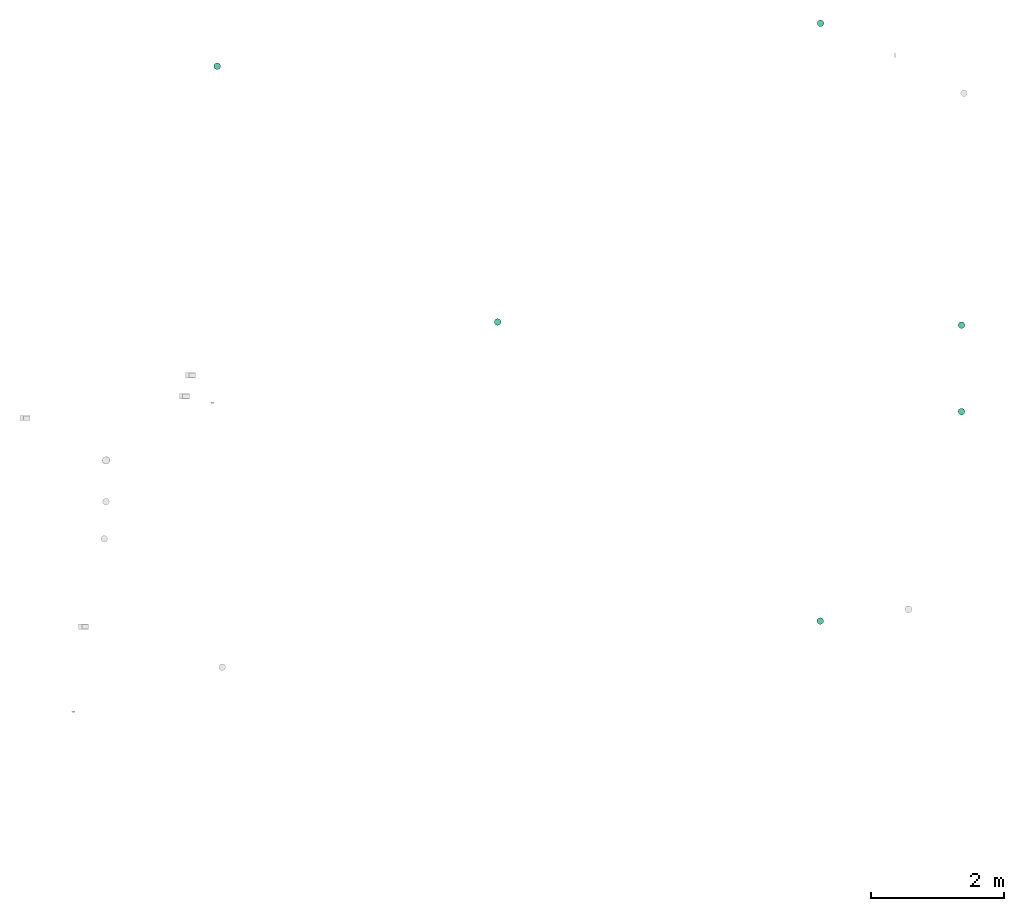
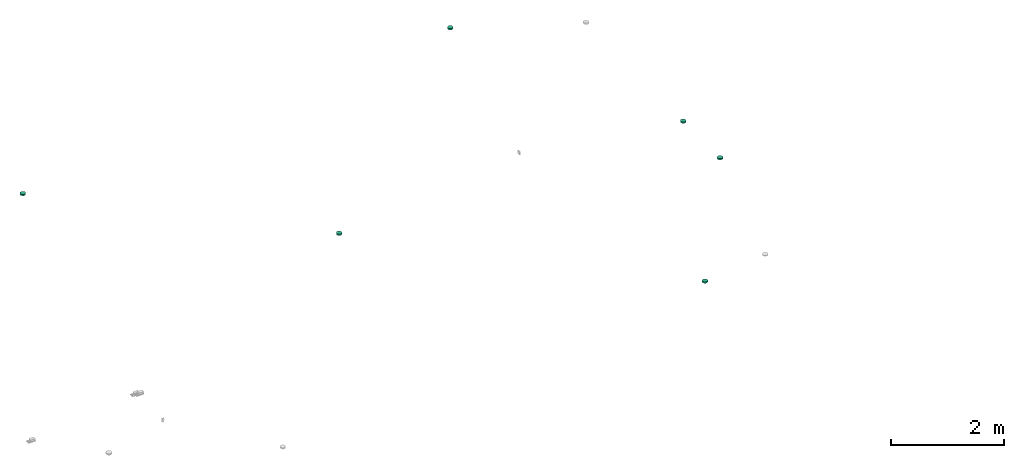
# One storey, part 6 of 10: 6 distribution control elements.
"""IFC2X3 building model written with IfcOpenShell, lengths in millimetres."""

from ifc_helpers import new_model, entity, si_unit, converted_unit, derived_unit, direction, frame, origin_with_axes, place, context, subcontext, project, spatial, open_shell, surface_model, source, transform, mapped, type_object, element, save


model = new_model("IFC2X3")

# Units and contexts
model_context = context("Model", 3, precision=0.01, world=frame((0.0, 4.29681676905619e-09, 0.0)), true_north=direction((4.01073788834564e-13, 1.0)))
plan_context = context("Plan", 3, precision=0.01, world=frame((0.0, 4.29681676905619e-09, 0.0)), true_north=direction((4.01073788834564e-13, 1.0)))
body_context = subcontext(model_context, "Body", "Model", "MODEL_VIEW")
ifc_project = project(units=[converted_unit("PLANEANGLEUNIT", "DEGREE", entity("IfcPositiveLengthMeasure", 0.0174532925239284), si_unit("PLANEANGLEUNIT", "RADIAN"), dimensions=[0, 0, 0, 0, 0, 0, 0]), si_unit("AREAUNIT", "SQUARE_METRE"), si_unit("LENGTHUNIT", "METRE", prefix="MILLI"), si_unit("MASSUNIT", "GRAM", prefix="KILO"), si_unit("POWERUNIT", "WATT"), si_unit("PRESSUREUNIT", "PASCAL"), si_unit("FORCEUNIT", "NEWTON", prefix="KILO"), si_unit("ELECTRICVOLTAGEUNIT", "VOLT"), si_unit("ELECTRICCURRENTUNIT", "AMPERE"), si_unit("THERMODYNAMICTEMPERATUREUNIT", "DEGREE_CELSIUS"), si_unit("TIMEUNIT", "SECOND"), si_unit("VOLUMEUNIT", "CUBIC_METRE"), derived_unit("LINEARVELOCITYUNIT", [(si_unit("LENGTHUNIT", "METRE"), 1), (si_unit("TIMEUNIT", "SECOND"), -1)]), derived_unit("VOLUMETRICFLOWRATEUNIT", [(si_unit("VOLUMEUNIT", "CUBIC_METRE"), 1), (si_unit("TIMEUNIT", "SECOND"), -1)]), derived_unit("THERMALTRANSMITTANCEUNIT", [(si_unit("POWERUNIT", "WATT"), 1), (si_unit("THERMODYNAMICTEMPERATUREUNIT", "KELVIN"), -1), (si_unit("AREAUNIT", "SQUARE_METRE"), -1)]), derived_unit("SOUNDPRESSUREUNIT", [(si_unit("PRESSUREUNIT", "PASCAL"), 1)])], contexts=[model_context, plan_context])

# Site, building, storey
site_placement = place(None, frame((0.0, -4.29681676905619e-09, 0.0), z_axis=(0.0, 0.0, 1.0), x_axis=(1.0, 0.0, 0.0)))
site = spatial("IfcSite", under=ifc_project, at=site_placement, Name="ENGM", CompositionType="ELEMENT")
building_placement = place(site_placement, frame((0.0, 4.29681676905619e-09, 0.0), z_axis=(0.0, 0.0, 1.0), x_axis=(1.0, 0.0, 0.0)))
building = spatial("IfcBuilding", under=site, at=building_placement, Name="TS", CompositionType="ELEMENT")
storey_placement = place(building_placement, frame((0.0, 0.0, 210900.0), z_axis=(0.0, 0.0, 1.0), x_axis=(1.0, 0.0, 0.0)))
storey = spatial("IfcBuildingStorey", under=building, at=storey_placement, Name="Nivå F", CompositionType="ELEMENT", Elevation=210900.0)

# Distribution control elements
alarm_type = type_object("IfcAlarmType", Name="Standard", PredefinedType="NOTDEFINED")
shared_shape = source(origin_with_axes(), body_context, "Body", "SurfaceModel", [
    surface_model("IfcShellBasedSurfaceModel", [(-25.0, 43.30127, -28.9), (-35.35534, 35.35534, -28.9), (-18.0, 31.17691, -28.9), (-25.45584, 25.45584, -28.9), (-9.31749, 34.77333, -28.9), (-12.94095, 48.29629, -28.9), (0.0, 36.0, -28.9), (0.0, 50.0, -28.9), (-34.77333, 9.31749, -28.9), (-43.30127, 25.0, -28.9), (-48.29629, 12.94095, -28.9), (-36.0, 0.0, -28.9), (-50.0, 0.0, -28.9), (-31.17691, 18.0, -28.9), (9.31749, 34.77333, -28.9), (12.94095, 48.29629, -28.9), (18.0, 31.17691, -28.9), (35.35534, 35.35534, -28.9), (25.0, 43.30127, -28.9), (25.45584, 25.45584, -28.9), (31.17691, 18.0, -28.9), (34.77333, 9.31749, -28.9), (43.30127, 25.0, -28.9), (48.29629, 12.94095, -28.9), (36.0, 0.0, -28.9), (50.0, 0.0, -28.9), (-34.77333, -9.31749, -28.9), (-48.29629, -12.94095, -28.9), (-31.17691, -18.0, -28.9), (-43.30127, -25.0, -28.9), (-25.45584, -25.45584, -28.9), (-35.35534, -35.35534, -28.9), (-18.0, -31.17691, -28.9), (-25.0, -43.30127, -28.9), (-9.31749, -34.77333, -28.9), (-12.94095, -48.29629, -28.9), (0.0, -36.0, -28.9), (0.0, -50.0, -28.9), (43.30127, -25.0, -28.9), (31.17691, -18.0, -28.9), (35.35534, -35.35534, -28.9), (34.77333, -9.31749, -28.9), (48.29629, -12.94095, -28.9), (25.45584, -25.45584, -28.9), (9.31749, -34.77333, -28.9), (12.94095, -48.29629, -28.9), (18.0, -31.17691, -28.9), (25.0, -43.30127, -28.9), (-25.0, -43.30127, -29.1), (-35.35534, -35.35534, -29.1), (-18.0, -31.17691, -29.1), (-25.45584, -25.45584, -29.1), (-9.31749, -34.77333, -29.1), (-12.94095, -48.29629, -29.1), (0.0, -36.0, -29.1), (0.0, -50.0, -29.1), (-34.77333, -9.31749, -29.1), (-43.30127, -25.0, -29.1), (-48.29629, -12.94095, -29.1), (-36.0, 0.0, -29.1), (-50.0, 0.0, -29.1), (-31.17691, -18.0, -29.1), (9.31749, -34.77333, -29.1), (12.94095, -48.29629, -29.1), (18.0, -31.17691, -29.1), (35.35534, -35.35534, -29.1), (25.0, -43.30127, -29.1), (25.45584, -25.45584, -29.1), (31.17691, -18.0, -29.1), (34.77333, -9.31749, -29.1), (43.30127, -25.0, -29.1), (48.29629, -12.94095, -29.1), (36.0, 0.0, -29.1), (50.0, 0.0, -29.1), (-34.77333, 9.31749, -29.1), (-48.29629, 12.94095, -29.1), (-31.17691, 18.0, -29.1), (-43.30127, 25.0, -29.1), (-25.45584, 25.45584, -29.1), (-35.35534, 35.35534, -29.1), (-18.0, 31.17691, -29.1), (-25.0, 43.30127, -29.1), (-9.31749, 34.77333, -29.1), (-12.94095, 48.29629, -29.1), (0.0, 36.0, -29.1), (0.0, 50.0, -29.1), (43.30127, 25.0, -29.1), (31.17691, 18.0, -29.1), (35.35534, 35.35534, -29.1), (34.77333, 9.31749, -29.1), (48.29629, 12.94095, -29.1), (25.45584, 25.45584, -29.1), (9.31749, 34.77333, -29.1), (12.94095, 48.29629, -29.1), (18.0, 31.17691, -29.1), (25.0, 43.30127, -29.1), (6.47048, -24.14815, -44.9), (12.5, -21.65064, -44.9), (17.67767, -17.67767, -44.9), (24.14815, -6.47048, -44.9), (-24.14815, -6.47048, -44.9), (21.65064, -12.5, -44.9), (-21.65064, 12.5, -44.9), (0.0, -25.0, -44.9), (-12.5, -21.65064, -44.9), (-6.47048, -24.14815, -44.9), (-17.67767, -17.67767, -44.9), (-21.65064, -12.5, -44.9), (25.0, 0.0, -44.9), (24.14815, 6.47048, -44.9), (21.65064, 12.5, -44.9), (17.67767, 17.67767, -44.9), (12.5, 21.65064, -44.9), (6.47048, 24.14815, -44.9), (0.0, 25.0, -44.9), (-25.0, 0.0, -44.9), (-24.14815, 6.47048, -44.9), (-12.5, 21.65064, -44.9), (-17.67767, 17.67767, -44.9), (-6.47048, 24.14815, -44.9), (0.0, 25.0, -45.1), (6.47048, 24.14815, -45.1), (12.5, 21.65064, -45.1), (-21.65064, 12.5, -45.1), (17.67767, 17.67767, -45.1), (21.65064, 12.5, -45.1), (24.14815, 6.47048, -45.1), (-12.5, 21.65064, -45.1), (-17.67767, 17.67767, -45.1), (-6.47048, 24.14815, -45.1), (-25.0, 0.0, -45.1), (-24.14815, 6.47048, -45.1), (-24.14815, -6.47048, -45.1), (24.14815, -6.47048, -45.1), (6.47048, -24.14815, -45.1), (21.65064, -12.5, -45.1), (17.67767, -17.67767, -45.1), (12.5, -21.65064, -45.1), (-12.5, -21.65064, -45.1), (-17.67767, -17.67767, -45.1), (-21.65064, -12.5, -45.1), (0.0, -25.0, -45.1), (-6.47048, -24.14815, -45.1), (25.0, 0.0, -45.1), (-1.46739, 34.60682, -29.0), (0.0, 34.8, -29.0), (0.0, 35.0, -29.0), (-34.60682, 1.46739, -29.0), (-35.0, 0.0, -29.0), (-34.8, 0.0, -29.0), (-17.5, 30.31089, -29.0), (-18.5742, 29.23669, -29.0), (-17.4, 30.13768, -29.0), (-24.60732, -24.60732, -29.0), (-18.5742, -29.23669, -29.0), (-29.23669, -18.5742, -29.0), (34.8, 0.0, -29.0), (34.60682, -1.46739, -29.0), (35.0, 0.0, -29.0), (17.4, 30.13768, -29.0), (17.5, 30.31089, -29.0), (16.03261, 30.70407, -29.0), (30.13768, 17.4, -29.0), (30.31089, 17.5, -29.0), (29.23669, 18.5742, -29.0), (34.60682, 1.46739, -29.0), (33.61422, -9.0069, -29.0), (30.70407, -16.03261, -29.0), (-33.61422, -9.0069, -29.0), (-30.70407, -16.03261, -29.0), (-34.60682, -1.46739, -29.0), (-30.13768, -17.4, -29.0), (-30.31089, -17.5, -29.0), (-17.5, -30.31089, -29.0), (-17.4, -30.13768, -29.0), (-1.46739, -34.60682, -29.0), (0.0, -35.0, -29.0), (0.0, -34.8, -29.0), (-16.03261, -30.70407, -29.0), (-9.0069, -33.61422, -29.0), (1.46739, -34.60682, -29.0), (30.13768, -17.4, -29.0), (29.23669, -18.5742, -29.0), (30.31089, -17.5, -29.0), (24.60732, -24.60732, -29.0), (18.5742, -29.23669, -29.0), (9.0069, -33.61422, -29.0), (16.03261, -30.70407, -29.0), (-30.13768, 17.4, -29.0), (-30.31089, 17.5, -29.0), (-30.70407, 16.03261, -29.0), (17.4, -30.13768, -29.0), (17.5, -30.31089, -29.0), (-33.61422, 9.0069, -29.0), (-29.23669, 18.5742, -29.0), (-24.60732, 24.60732, -29.0), (-16.03261, 30.70407, -29.0), (-9.0069, 33.61422, -29.0), (1.46739, 34.60682, -29.0), (9.0069, 33.61422, -29.0), (18.5742, 29.23669, -29.0), (24.60732, 24.60732, -29.0), (30.70407, 16.03261, -29.0), (33.61422, 9.0069, -29.0), (23.00389, 18.55381, -38.25), (14.9, 25.80756, -38.25), (21.07178, 21.07178, -38.25), (29.66376, 1.03484, -38.25), (30.0, 0.0, -38.25), (29.8, 0.0, -38.25), (24.27051, 17.63356, -38.25), (24.68215, 16.36666, -38.25), (10.52665, 27.61906, -38.25), (28.78459, 7.71281, -38.25), (-10.52665, 27.61906, -38.25), (-23.00389, 18.55381, -38.25), (-14.9, 25.80756, -38.25), (8.32335, 28.5317, -38.25), (0.0, 29.8, -38.25), (7.71281, 28.78459, -38.25), (-8.32335, 28.5317, -38.25), (-24.68215, 16.36666, -38.25), (-28.78459, 7.71281, -38.25), (-25.80756, 14.9, -38.25), (-9.27051, 28.5317, -38.25), (-29.66376, 1.03484, -38.25), (-29.8, 0.0, -38.25), (-30.0, 0.0, -38.25), (-28.78459, -7.71281, -38.25), (-24.68215, -16.36666, -38.25), (-25.80756, -14.9, -38.25), (29.66376, -1.03484, -38.25), (-7.71281, 28.78459, -38.25), (25.80756, 14.9, -38.25), (14.9, -25.80756, -38.25), (10.52665, -27.61906, -38.25), (23.00389, -18.55381, -38.25), (28.78459, -7.71281, -38.25), (24.68215, -16.36666, -38.25), (0.0, -29.8, -38.25), (-7.71281, -28.78459, -38.25), (-8.32335, -28.5317, -38.25), (8.32335, -28.5317, -38.25), (9.27051, 28.5317, -38.25), (-29.66376, -1.03484, -38.25), (21.07178, -21.07178, -38.25), (-23.00389, -18.55381, -38.25), (-24.27051, -17.63356, -38.25), (-9.27051, -28.5317, -38.25), (-10.52665, -27.61906, -38.25), (-21.07178, -21.07178, -38.25), (-14.9, -25.80756, -38.25), (9.27051, -28.5317, -38.25), (7.71281, -28.78459, -38.25), (24.27051, -17.63356, -38.25), (25.80756, -14.9, -38.25), (-21.07178, 21.07178, -38.25), (-24.27051, 17.63356, -38.25), (33.28589, -6.39713, -29.0), (27.13526, -8.81678, -38.25), (-16.77051, -23.08263, -38.25), (-23.90544, -23.90544, -29.0), (-27.13526, -8.81678, -38.25), (-33.28589, -6.39713, -29.0), (16.77051, -23.08263, -38.25), (8.75, -32.65544, -29.0), (0.0, -28.5317, -38.25), (23.90544, -23.90544, -29.0), (-8.75, -32.65544, -29.0), (-33.28589, 6.39713, -29.0), (-27.13526, 8.81678, -38.25), (16.77051, 23.08263, -38.25), (23.90544, 23.90544, -29.0), (27.13526, 8.81678, -38.25), (33.28589, 6.39713, -29.0), (-16.77051, 23.08263, -38.25), (-8.75, 32.65544, -29.0), (0.0, 28.5317, -38.25), (-23.90544, 23.90544, -29.0), (8.75, 32.65544, -29.0), (12.4, 21.47743, -45.0), (17.53625, 17.53625, -45.0), (19.07577, 15.5299, -45.0), (20.22543, 14.69463, -45.0), (20.59905, 13.54472, -45.0), (24.66376, 1.03484, -45.0), (25.0, 0.0, -45.0), (24.8, 0.0, -45.0), (8.88673, 22.93267, -45.0), (23.95496, 6.41871, -45.0), (-8.88673, 22.93267, -45.0), (-19.07577, 15.5299, -45.0), (-12.4, 21.47743, -45.0), (6.84976, 23.77641, -45.0), (0.0, 24.8, -45.0), (6.41871, 23.95496, -45.0), (-7.72542, 23.77641, -45.0), (-6.84976, 23.77641, -45.0), (-21.47743, 12.4, -45.0), (-20.59905, 13.54472, -45.0), (-23.95496, 6.41871, -45.0), (-25.0, 0.0, -45.0), (-24.66376, 1.03484, -45.0), (-24.8, 0.0, -45.0), (-23.95496, -6.41871, -45.0), (-20.59905, -13.54472, -45.0), (-21.47743, -12.4, -45.0), (-6.41871, 23.95496, -45.0), (24.66376, -1.03484, -45.0), (21.47743, 12.4, -45.0), (12.4, -21.47743, -45.0), (8.88673, -22.93267, -45.0), (19.07577, -15.5299, -45.0), (23.95496, -6.41871, -45.0), (20.59905, -13.54472, -45.0), (0.0, -24.8, -45.0), (-6.41871, -23.95496, -45.0), (-6.84976, -23.77641, -45.0), (7.72542, -23.77641, -45.0), (6.84976, -23.77641, -45.0), (7.72542, 23.77641, -45.0), (-24.66376, -1.03484, -45.0), (17.53625, -17.53625, -45.0), (-20.22543, -14.69463, -45.0), (-19.07577, -15.5299, -45.0), (-8.88673, -22.93267, -45.0), (-7.72542, -23.77641, -45.0), (-17.53625, -17.53625, -45.0), (-12.4, -21.47743, -45.0), (6.41871, -23.95496, -45.0), (20.22543, -14.69463, -45.0), (21.47743, -12.4, -45.0), (-17.53625, 17.53625, -45.0), (-20.22543, 14.69463, -45.0), (-22.61271, -7.34732, -45.0), (-13.97542, -19.23552, -45.0), (0.0, -23.77641, -45.0), (21.83768, -9.73262, -45.0), (13.97542, -19.23552, -45.0), (23.41884, -4.86631, -45.0), (22.61271, 7.34732, -45.0), (13.97542, 19.23552, -45.0), (0.0, 23.77641, -45.0), (-21.83768, 9.73262, -45.0), (-13.97542, 19.23552, -45.0), (-23.41884, 4.86631, -45.0), (12.94095, -48.29629, 0.0), (25.0, -43.30127, 0.0), (35.35534, -35.35534, 0.0), (48.29629, -12.94095, 0.0), (-48.29629, -12.94095, 0.0), (43.30127, -25.0, 0.0), (-43.30127, 25.0, 0.0), (0.0, -50.0, 0.0), (-25.0, -43.30127, 0.0), (-12.94095, -48.29629, 0.0), (-35.35534, -35.35534, 0.0), (-43.30127, -25.0, 0.0), (50.0, 0.0, 0.0), (48.29629, 12.94095, 0.0), (43.30127, 25.0, 0.0), (35.35534, 35.35534, 0.0), (25.0, 43.30127, 0.0), (12.94095, 48.29629, 0.0), (0.0, 50.0, 0.0), (-50.0, 0.0, 0.0), (-48.29629, 12.94095, 0.0), (-25.0, 43.30127, 0.0), (-35.35534, 35.35534, 0.0), (-12.94095, 48.29629, 0.0), (0.0, 50.0, -29.0), (12.94095, 48.29629, -29.0), (25.0, 43.30127, -29.0), (-43.30127, 25.0, -29.0), (35.35534, 35.35534, -29.0), (43.30127, 25.0, -29.0), (48.29629, 12.94095, -29.0), (-25.0, 43.30127, -29.0), (-35.35534, 35.35534, -29.0), (-12.94095, 48.29629, -29.0), (-50.0, 0.0, -29.0), (-48.29629, 12.94095, -29.0), (-48.29629, -12.94095, -29.0), (48.29629, -12.94095, -29.0), (12.94095, -48.29629, -29.0), (43.30127, -25.0, -29.0), (35.35534, -35.35534, -29.0), (25.0, -43.30127, -29.0), (-25.0, -43.30127, -29.0), (-35.35534, -35.35534, -29.0), (-43.30127, -25.0, -29.0), (0.0, -50.0, -29.0), (-12.94095, -48.29629, -29.0), (50.0, 0.0, -29.0)], [open_shell([[[0, 1, 2]], [[2, 1, 3]], [[0, 2, 4]], [[5, 4, 6]], [[4, 5, 0]], [[5, 6, 7]], [[8, 9, 10]], [[11, 10, 12]], [[8, 10, 11]], [[13, 3, 9]], [[8, 13, 9]], [[9, 3, 1]], [[7, 14, 15]], [[14, 7, 6]], [[15, 14, 16]], [[17, 18, 19]], [[16, 18, 15]], [[19, 18, 16]], [[20, 21, 22]], [[20, 22, 17]], [[21, 23, 22]], [[23, 21, 24]], [[23, 24, 25]], [[20, 17, 19]], [[26, 12, 27]], [[28, 27, 29]], [[28, 26, 27]], [[30, 28, 29]], [[29, 31, 30]], [[32, 31, 33]], [[31, 32, 30]], [[32, 33, 34]], [[34, 35, 36]], [[35, 34, 33]], [[36, 35, 37]], [[38, 39, 40]], [[41, 39, 42]], [[41, 42, 25]], [[42, 39, 38]], [[39, 43, 40]], [[25, 24, 41]], [[44, 37, 45]], [[37, 44, 36]], [[44, 45, 46]], [[47, 40, 43]], [[47, 46, 45]], [[47, 43, 46]], [[26, 11, 12]], [[48, 49, 50]], [[50, 49, 51]], [[48, 50, 52]], [[53, 52, 54]], [[52, 53, 48]], [[53, 54, 55]], [[56, 57, 58]], [[59, 58, 60]], [[56, 58, 59]], [[61, 51, 57]], [[56, 61, 57]], [[57, 51, 49]], [[55, 62, 63]], [[62, 55, 54]], [[63, 62, 64]], [[65, 66, 67]], [[64, 66, 63]], [[67, 66, 64]], [[68, 69, 70]], [[68, 70, 65]], [[69, 71, 70]], [[71, 69, 72]], [[71, 72, 73]], [[68, 65, 67]], [[74, 60, 75]], [[76, 75, 77]], [[76, 74, 75]], [[78, 76, 77]], [[77, 79, 78]], [[80, 79, 81]], [[79, 80, 78]], [[80, 81, 82]], [[82, 83, 84]], [[83, 82, 81]], [[84, 83, 85]], [[86, 87, 88]], [[89, 87, 90]], [[89, 90, 73]], [[90, 87, 86]], [[87, 91, 88]], [[73, 72, 89]], [[92, 85, 93]], [[85, 92, 84]], [[92, 93, 94]], [[95, 88, 91]], [[95, 94, 93]], [[95, 91, 94]], [[74, 59, 60]], [[11, 59, 8]], [[8, 74, 13]], [[2, 3, 78]], [[76, 3, 13]], [[4, 2, 80]], [[74, 76, 13]], [[8, 59, 74]], [[84, 6, 82]], [[4, 80, 82]], [[80, 2, 78]], [[3, 76, 78]], [[4, 82, 6]], [[14, 92, 16]], [[16, 94, 19]], [[21, 20, 87]], [[91, 20, 19]], [[24, 21, 89]], [[92, 94, 16]], [[14, 84, 92]], [[21, 87, 89]], [[87, 20, 91]], [[19, 94, 91]], [[24, 89, 72]], [[6, 84, 14]], [[24, 72, 41]], [[41, 69, 39]], [[46, 43, 67]], [[68, 43, 39]], [[44, 46, 64]], [[69, 68, 39]], [[41, 72, 69]], [[54, 36, 62]], [[44, 64, 62]], [[64, 46, 67]], [[43, 68, 67]], [[44, 62, 36]], [[34, 52, 32]], [[32, 50, 30]], [[26, 28, 61]], [[51, 28, 30]], [[11, 26, 56]], [[52, 50, 32]], [[34, 54, 52]], [[26, 61, 56]], [[61, 28, 51]], [[30, 50, 51]], [[11, 56, 59]], [[36, 54, 34]], [[58, 27, 60]], [[57, 29, 58]], [[33, 49, 48]], [[57, 49, 31]], [[35, 48, 53]], [[58, 29, 27]], [[27, 12, 60]], [[35, 33, 48]], [[31, 49, 33]], [[31, 29, 57]], [[37, 35, 53]], [[53, 55, 37]], [[63, 45, 55]], [[66, 47, 63]], [[38, 65, 70]], [[66, 65, 40]], [[42, 70, 71]], [[66, 40, 47]], [[47, 45, 63]], [[25, 42, 71]], [[38, 70, 42]], [[38, 40, 65]], [[73, 25, 71]], [[55, 45, 37]], [[90, 23, 73]], [[86, 22, 90]], [[18, 88, 95]], [[86, 88, 17]], [[15, 95, 93]], [[90, 22, 23]], [[23, 25, 73]], [[15, 18, 95]], [[17, 88, 18]], [[17, 22, 86]], [[7, 15, 93]], [[93, 85, 7]], [[83, 5, 85]], [[81, 0, 83]], [[9, 79, 77]], [[81, 79, 1]], [[10, 77, 75]], [[81, 1, 0]], [[0, 5, 83]], [[12, 10, 75]], [[9, 77, 10]], [[9, 1, 79]], [[60, 12, 75]], [[85, 5, 7]], [[96, 97, 98]], [[96, 98, 99]], [[96, 99, 100]], [[99, 98, 101]], [[102, 100, 99]], [[103, 104, 105]], [[103, 96, 104]], [[106, 100, 107]], [[106, 104, 96]], [[100, 106, 96]], [[99, 108, 102]], [[109, 110, 111]], [[109, 111, 112]], [[112, 113, 114]], [[109, 112, 102]], [[102, 112, 114]], [[115, 102, 116]], [[100, 102, 115]], [[102, 117, 118]], [[117, 102, 119]], [[114, 119, 102]], [[102, 108, 109]], [[120, 121, 122]], [[123, 120, 122]], [[124, 125, 126]], [[124, 126, 122]], [[123, 122, 126]], [[127, 123, 128]], [[123, 127, 129]], [[123, 130, 131]], [[123, 129, 120]], [[123, 132, 130]], [[123, 126, 133]], [[132, 123, 133]], [[134, 133, 135]], [[136, 137, 134]], [[136, 134, 135]], [[138, 133, 134]], [[132, 139, 140]], [[132, 133, 139]], [[138, 141, 142]], [[139, 133, 138]], [[134, 141, 138]], [[133, 126, 143]], [[132, 100, 130]], [[140, 107, 132]], [[104, 139, 138]], [[140, 139, 106]], [[105, 138, 142]], [[132, 107, 100]], [[100, 115, 130]], [[105, 104, 138]], [[106, 139, 104]], [[106, 107, 140]], [[103, 105, 142]], [[142, 141, 103]], [[134, 96, 141]], [[137, 97, 134]], [[101, 136, 135]], [[137, 136, 98]], [[99, 135, 133]], [[137, 98, 97]], [[97, 96, 134]], [[108, 99, 133]], [[101, 135, 99]], [[101, 98, 136]], [[143, 108, 133]], [[141, 96, 103]], [[126, 109, 143]], [[125, 110, 126]], [[112, 124, 122]], [[125, 124, 111]], [[113, 122, 121]], [[126, 110, 109]], [[109, 108, 143]], [[113, 112, 122]], [[111, 124, 112]], [[111, 110, 125]], [[114, 113, 121]], [[121, 120, 114]], [[129, 119, 120]], [[127, 117, 129]], [[102, 128, 123]], [[127, 128, 118]], [[116, 123, 131]], [[127, 118, 117]], [[117, 119, 129]], [[115, 116, 131]], [[102, 123, 116]], [[102, 118, 128]], [[130, 115, 131]], [[120, 119, 114]], [[144, 145, 146]], [[147, 148, 149]], [[150, 151, 152]], [[153, 154, 155]], [[156, 157, 158]], [[159, 160, 161]], [[162, 163, 164]], [[156, 158, 165]], [[166, 157, 167]], [[168, 169, 170]], [[170, 149, 148]], [[171, 169, 172]], [[173, 174, 154]], [[175, 176, 177]], [[174, 173, 178]], [[155, 171, 172]], [[179, 175, 178]], [[180, 177, 176]], [[181, 182, 183]], [[181, 183, 167]], [[184, 182, 185]], [[186, 187, 180]], [[188, 189, 190]], [[191, 192, 185]], [[191, 187, 192]], [[193, 147, 190]], [[188, 194, 189]], [[195, 194, 151]], [[152, 196, 150]], [[197, 196, 144]], [[145, 198, 146]], [[199, 198, 161]], [[159, 200, 160]], [[201, 200, 164]], [[162, 202, 163]], [[203, 202, 165]], [[204, 205, 206]], [[207, 208, 209]], [[204, 210, 211]], [[205, 204, 212]], [[213, 207, 211]], [[214, 215, 216]], [[217, 218, 219]], [[218, 217, 220]], [[221, 222, 223]], [[220, 214, 224]], [[225, 226, 227]], [[228, 229, 230]], [[209, 208, 231]], [[218, 220, 232]], [[213, 211, 233]], [[234, 235, 236]], [[237, 238, 231]], [[239, 240, 241]], [[241, 242, 239]], [[243, 212, 217]], [[227, 226, 244]], [[234, 236, 245]], [[229, 246, 247]], [[241, 248, 249]], [[250, 246, 251]], [[228, 244, 229]], [[235, 252, 242]], [[239, 242, 253]], [[236, 238, 254]], [[238, 237, 255]], [[251, 246, 249]], [[216, 215, 256]], [[215, 221, 257]], [[222, 221, 225]], [[208, 158, 258]], [[183, 259, 258]], [[260, 261, 247]], [[172, 262, 247]], [[263, 227, 262]], [[192, 252, 264]], [[260, 248, 173]], [[261, 260, 173]], [[252, 265, 266]], [[227, 263, 148]], [[172, 263, 262]], [[258, 259, 208]], [[254, 267, 264]], [[268, 173, 248]], [[252, 192, 265]], [[192, 264, 267]], [[267, 254, 183]], [[259, 183, 254]], [[268, 266, 176]], [[265, 176, 266]], [[248, 266, 268]], [[172, 247, 261]], [[227, 148, 269]], [[189, 270, 269]], [[271, 272, 210]], [[163, 273, 210]], [[274, 208, 273]], [[150, 224, 275]], [[271, 243, 160]], [[272, 271, 160]], [[224, 276, 277]], [[208, 274, 158]], [[163, 274, 273]], [[269, 270, 227]], [[257, 278, 275]], [[279, 160, 243]], [[224, 150, 276]], [[150, 275, 278]], [[278, 257, 189]], [[270, 189, 257]], [[279, 277, 146]], [[276, 146, 277]], [[243, 277, 279]], [[163, 210, 272]], [[171, 230, 228]], [[168, 228, 226]], [[179, 240, 251]], [[174, 251, 250]], [[153, 250, 230]], [[168, 171, 228]], [[226, 149, 168]], [[251, 174, 179]], [[174, 250, 153]], [[230, 171, 153]], [[240, 179, 177]], [[177, 239, 240]], [[184, 245, 234]], [[191, 234, 253]], [[156, 209, 237]], [[166, 237, 255]], [[181, 255, 245]], [[239, 186, 253]], [[186, 191, 253]], [[177, 186, 239]], [[184, 181, 245]], [[191, 184, 234]], [[181, 166, 255]], [[166, 156, 237]], [[162, 233, 213]], [[203, 213, 209]], [[199, 219, 205]], [[159, 205, 206]], [[201, 206, 233]], [[203, 162, 213]], [[209, 156, 203]], [[205, 159, 199]], [[159, 206, 201]], [[233, 162, 201]], [[219, 199, 145]], [[145, 218, 219]], [[195, 256, 216]], [[152, 216, 232]], [[149, 226, 222]], [[193, 222, 223]], [[188, 223, 256]], [[218, 197, 232]], [[197, 152, 232]], [[145, 197, 218]], [[195, 188, 256]], [[152, 195, 216]], [[188, 193, 223]], [[193, 149, 222]], [[215, 216, 256]], [[221, 222, 225]], [[225, 227, 226]], [[257, 221, 215]], [[216, 215, 214]], [[212, 204, 205]], [[220, 218, 232]], [[218, 220, 217]], [[217, 212, 243]], [[233, 211, 213]], [[208, 207, 209]], [[237, 238, 255]], [[252, 235, 242]], [[218, 217, 219]], [[227, 244, 226]], [[222, 221, 223]], [[228, 229, 244]], [[239, 253, 242]], [[246, 251, 249]], [[249, 248, 241]], [[231, 238, 237]], [[208, 209, 231]], [[251, 246, 250]], [[254, 238, 236]], [[236, 234, 245]], [[214, 220, 224]], [[242, 241, 239]], [[239, 241, 240]], [[246, 229, 247]], [[230, 229, 228]], [[234, 236, 235]], [[205, 204, 206]], [[204, 211, 210]], [[213, 211, 207]], [[280, 281, 282]], [[282, 283, 284]], [[285, 286, 287]], [[280, 282, 288]], [[289, 285, 284]], [[290, 291, 292]], [[293, 294, 295]], [[290, 296, 297]], [[294, 293, 297]], [[298, 299, 300]], [[301, 302, 303]], [[304, 305, 306]], [[294, 297, 307]], [[308, 287, 286]], [[289, 284, 309]], [[310, 311, 312]], [[313, 314, 308]], [[315, 316, 317]], [[311, 318, 319]], [[293, 320, 288]], [[301, 303, 321]], [[310, 312, 322]], [[323, 305, 324]], [[325, 317, 326]], [[327, 324, 328]], [[304, 321, 305]], [[317, 319, 315]], [[315, 319, 329]], [[312, 314, 330]], [[331, 314, 313]], [[328, 324, 325]], [[292, 291, 332]], [[291, 299, 333]], [[300, 299, 302]], [[262, 301, 334]], [[334, 323, 247]], [[248, 335, 326]], [[301, 262, 227]], [[334, 247, 262]], [[260, 323, 335]], [[266, 248, 326]], [[336, 252, 266]], [[252, 336, 318]], [[323, 260, 247]], [[248, 260, 335]], [[254, 337, 259]], [[318, 264, 252]], [[338, 254, 264]], [[339, 286, 208]], [[264, 318, 338]], [[259, 339, 208]], [[338, 330, 254]], [[266, 326, 336]], [[259, 337, 339]], [[337, 254, 330]], [[273, 286, 340]], [[340, 283, 210]], [[243, 341, 320]], [[286, 273, 208]], [[340, 210, 273]], [[271, 283, 341]], [[277, 243, 320]], [[342, 224, 277]], [[224, 342, 296]], [[283, 271, 210]], [[243, 271, 341]], [[257, 343, 270]], [[296, 275, 224]], [[344, 257, 275]], [[345, 301, 227]], [[275, 296, 344]], [[270, 345, 227]], [[344, 333, 257]], [[277, 320, 342]], [[270, 343, 345]], [[343, 257, 333]], [[230, 306, 304]], [[228, 304, 303]], [[240, 316, 328]], [[251, 328, 327]], [[250, 327, 306]], [[228, 230, 304]], [[303, 226, 228]], [[328, 251, 240]], [[251, 327, 250]], [[306, 230, 250]], [[316, 240, 239]], [[239, 315, 316]], [[245, 322, 310]], [[234, 310, 329]], [[209, 287, 313]], [[237, 313, 331]], [[255, 331, 322]], [[315, 253, 329]], [[253, 234, 329]], [[239, 253, 315]], [[255, 322, 245]], [[234, 245, 310]], [[331, 255, 237]], [[237, 209, 313]], [[233, 309, 289]], [[213, 289, 287]], [[219, 295, 280]], [[205, 280, 281]], [[206, 281, 309]], [[213, 233, 289]], [[287, 209, 213]], [[280, 205, 219]], [[205, 281, 206]], [[309, 233, 206]], [[295, 219, 218]], [[218, 294, 295]], [[256, 332, 292]], [[216, 292, 307]], [[226, 303, 300]], [[222, 300, 298]], [[223, 298, 332]], [[294, 232, 307]], [[232, 216, 307]], [[218, 232, 294]], [[223, 332, 256]], [[216, 256, 292]], [[298, 223, 222]], [[222, 226, 300]], [[346, 347, 348]], [[346, 348, 349]], [[346, 349, 350]], [[349, 348, 351]], [[352, 350, 349]], [[353, 354, 355]], [[353, 346, 354]], [[356, 350, 357]], [[356, 354, 346]], [[350, 356, 346]], [[349, 358, 352]], [[359, 360, 361]], [[359, 361, 362]], [[362, 363, 364]], [[359, 362, 352]], [[352, 362, 364]], [[365, 352, 366]], [[350, 352, 365]], [[352, 367, 368]], [[367, 352, 369]], [[364, 369, 352]], [[352, 358, 359]], [[370, 371, 372]], [[373, 370, 372]], [[374, 375, 376]], [[374, 376, 372]], [[373, 372, 376]], [[377, 373, 378]], [[373, 377, 379]], [[373, 380, 381]], [[373, 379, 370]], [[373, 382, 380]], [[373, 376, 383]], [[382, 373, 383]], [[384, 383, 385]], [[386, 387, 384]], [[386, 384, 385]], [[388, 383, 384]], [[382, 389, 390]], [[382, 383, 389]], [[388, 391, 392]], [[389, 383, 388]], [[384, 391, 388]], [[383, 376, 393]], [[382, 350, 380]], [[390, 357, 382]], [[354, 389, 388]], [[390, 389, 356]], [[355, 388, 392]], [[382, 357, 350]], [[350, 365, 380]], [[355, 354, 388]], [[356, 389, 354]], [[356, 357, 390]], [[353, 355, 392]], [[392, 391, 353]], [[384, 346, 391]], [[387, 347, 384]], [[351, 386, 385]], [[387, 386, 348]], [[349, 385, 383]], [[387, 348, 347]], [[347, 346, 384]], [[358, 349, 383]], [[351, 385, 349]], [[351, 348, 386]], [[393, 358, 383]], [[391, 346, 353]], [[376, 359, 393]], [[375, 360, 376]], [[362, 374, 372]], [[375, 374, 361]], [[363, 372, 371]], [[376, 360, 359]], [[359, 358, 393]], [[363, 362, 372]], [[361, 374, 362]], [[361, 360, 375]], [[364, 363, 371]], [[371, 370, 364]], [[369, 370, 379]], [[367, 379, 377]], [[352, 373, 381]], [[366, 381, 380]], [[379, 367, 369]], [[367, 377, 378]], [[367, 378, 368]], [[368, 378, 352]], [[352, 378, 373]], [[352, 381, 366]], [[380, 365, 366]], [[370, 369, 364]]])]),
])
for number, where, z_axis, x_axis, name in (
    (1, (524464.52932, 460314.04932, 3800.0), (0.0, 0.0, 1.0), (1.0, 0.0, 0.0), "Standard"),
    (2, (533540.24, 460959.76, 3800.0), (0.0, 0.0, 1.0), (1.0, 0.0, 0.0), "Standard"),
    (3, (533535.24, 451969.76, 3800.0), (0.0, 0.0, 1.0), (1.0, 0.0, 0.0), "Standard"),
    (4, (535660.17303, 455120.10278, 3800.0), (0.0, 0.0, 1.0), (1.0, 0.0, 0.0), "Standard"),
    (5, (535660.17303, 456420.10278, 3800.0), (0.0, 0.0, 1.0), (1.0, 0.0, 0.0), "Standard"),
    (6, (528682.68626, 456467.51376, 3800.0), (0.0, 0.0, 1.0), (1.0, 0.0, 0.0), "Standard"),
):
    element("IfcDistributionControlElement", number, at=place(storey_placement, frame(where, z_axis=z_axis, x_axis=x_axis)), inside=storey, type_object=alarm_type, Name=name, context=body_context, shape_type="MappedRepresentation", body=[
        mapped(shared_shape, transform((0.0, 0.0, 0.0), scale=1.0)),
    ])

save(model, "model.ifc")
